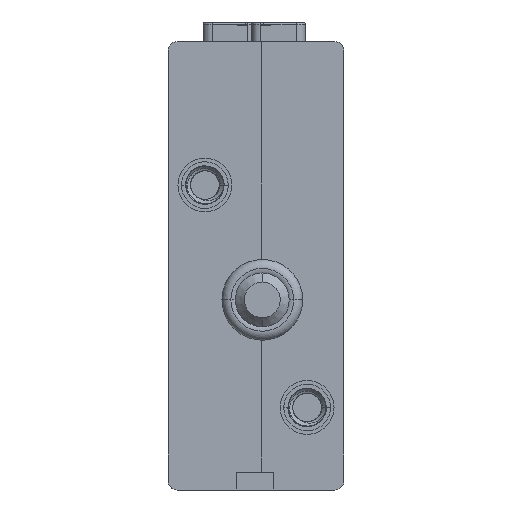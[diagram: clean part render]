
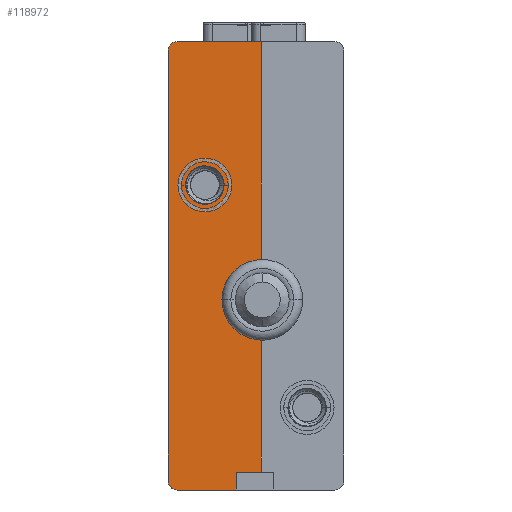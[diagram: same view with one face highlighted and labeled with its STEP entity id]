
A CAD part, left-side view. The second image highlights one B-rep face of the part: STEP entity #118972.
In plain terms, the highlighted planar face has unit normal (-1, 0, 0).
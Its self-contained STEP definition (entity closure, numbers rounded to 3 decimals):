
#116344=DIRECTION('',(0.,-1.,0.));
#116345=VECTOR('',#116344,4.7);
#116346=CARTESIAN_POINT('',(-21.,5.2,-12.5));
#116347=LINE('',#116346,#116345);
#116348=CARTESIAN_POINT('',(-21.,2.05,-4.5));
#116349=DIRECTION('',(-1.,0.,0.));
#116350=DIRECTION('',(0.,-1.,0.));
#116351=AXIS2_PLACEMENT_3D('',#116348,#116349,#116350);
#116353=CARTESIAN_POINT('',(-21.,2.05,-4.5));
#116354=DIRECTION('',(-1.,0.,0.));
#116355=DIRECTION('',(0.,1.,0.));
#116356=AXIS2_PLACEMENT_3D('',#116353,#116354,#116355);
#116358=CARTESIAN_POINT('',(-21.,0.5,12.));
#116359=DIRECTION('',(-1.,0.,0.));
#116360=DIRECTION('',(0.,-1.,0.));
#116361=AXIS2_PLACEMENT_3D('',#116358,#116359,#116360);
#116363=CARTESIAN_POINT('',(-21.,0.5,-12.));
#116364=DIRECTION('',(-1.,0.,0.));
#116365=DIRECTION('',(0.,0.,-1.));
#116366=AXIS2_PLACEMENT_3D('',#116363,#116364,#116365);
#116368=DIRECTION('',(0.,0.,1.));
#116369=VECTOR('',#116368,12.751);
#116370=CARTESIAN_POINT('',(-21.,5.2,-12.5));
#116371=LINE('',#116370,#116369);
#116372=CARTESIAN_POINT('',(-21.,5.25,1.9));
#116373=DIRECTION('',(-1.,0.,0.));
#116374=DIRECTION('',(0.,-0.03,-1.));
#116375=AXIS2_PLACEMENT_3D('',#116372,#116373,#116374);
#116377=DIRECTION('',(0.,0.,1.));
#116378=VECTOR('',#116377,7.951);
#116379=CARTESIAN_POINT('',(-21.,5.2,3.549));
#116380=LINE('',#116379,#116378);
#116472=DIRECTION('',(0.,1.,0.));
#116473=VECTOR('',#116472,3.3);
#116474=CARTESIAN_POINT('',(-21.,0.5,12.5));
#116475=LINE('',#116474,#116473);
#116589=DIRECTION('',(0.,0.,1.));
#116590=VECTOR('',#116589,1.);
#116591=CARTESIAN_POINT('',(-21.,3.8,11.5));
#116592=LINE('',#116591,#116590);
#116640=DIRECTION('',(0.,0.,1.));
#116641=VECTOR('',#116640,24.);
#116642=CARTESIAN_POINT('',(-21.,0.,-12.));
#116643=LINE('',#116642,#116641);
#117578=DIRECTION('',(0.,1.,0.));
#117579=VECTOR('',#117578,1.4);
#117580=CARTESIAN_POINT('',(-21.,3.8,11.5));
#117581=LINE('',#117580,#117579);
#118151=CARTESIAN_POINT('',(-21.,5.2,-12.5));
#118153=VERTEX_POINT('',#118151);
#118160=CARTESIAN_POINT('',(-21.,1.,-4.5));
#118161=CARTESIAN_POINT('',(-21.,3.1,-4.5));
#118162=VERTEX_POINT('',#118160);
#118163=VERTEX_POINT('',#118161);
#118176=CARTESIAN_POINT('',(-21.,5.2,0.251));
#118177=CARTESIAN_POINT('',(-21.,5.2,3.549));
#118178=VERTEX_POINT('',#118176);
#118179=VERTEX_POINT('',#118177);
#118240=CARTESIAN_POINT('',(-21.,3.8,11.5));
#118241=CARTESIAN_POINT('',(-21.,5.2,11.5));
#118242=VERTEX_POINT('',#118240);
#118243=VERTEX_POINT('',#118241);
#118244=CARTESIAN_POINT('',(-21.,3.8,12.5));
#118245=VERTEX_POINT('',#118244);
#118567=CARTESIAN_POINT('',(-21.,0.,12.));
#118568=CARTESIAN_POINT('',(-21.,0.5,12.5));
#118569=VERTEX_POINT('',#118567);
#118570=VERTEX_POINT('',#118568);
#118579=CARTESIAN_POINT('',(-21.,0.5,-12.5));
#118580=CARTESIAN_POINT('',(-21.,0.,-12.));
#118581=VERTEX_POINT('',#118579);
#118582=VERTEX_POINT('',#118580);
#118941=CARTESIAN_POINT('',(-21.,0.,-12.5));
#118942=DIRECTION('',(-1.,0.,0.));
#118943=DIRECTION('',(0.,0.,1.));
#118944=AXIS2_PLACEMENT_3D('',#118941,#118942,#118943);
#118945=PLANE('',#118944);
#118947=ORIENTED_EDGE('',*,*,#118946,.F.);
#118949=ORIENTED_EDGE('',*,*,#118948,.F.);
#118950=ORIENTED_EDGE('',*,*,#118931,.F.);
#118951=ORIENTED_EDGE('',*,*,#118921,.F.);
#118953=ORIENTED_EDGE('',*,*,#118952,.T.);
#118955=ORIENTED_EDGE('',*,*,#118954,.T.);
#118957=ORIENTED_EDGE('',*,*,#118956,.T.);
#118959=ORIENTED_EDGE('',*,*,#118958,.F.);
#118961=ORIENTED_EDGE('',*,*,#118960,.T.);
#118963=ORIENTED_EDGE('',*,*,#118962,.F.);
#118964=EDGE_LOOP('',(#118947,#118949,#118950,#118951,#118953,#118955,#118957,
#118959,#118961,#118963));
#118965=FACE_OUTER_BOUND('',#118964,.F.);
#118967=ORIENTED_EDGE('',*,*,#118966,.T.);
#118969=ORIENTED_EDGE('',*,*,#118968,.T.);
#118970=EDGE_LOOP('',(#118967,#118969));
#118971=FACE_BOUND('',#118970,.F.);
#118972=ADVANCED_FACE('',(#118965,#118971),#118945,.T.);
#116352=CIRCLE('',#116351,1.05);
#116357=CIRCLE('',#116356,1.05);
#116362=CIRCLE('',#116361,0.5);
#116367=CIRCLE('',#116366,0.5);
#116376=CIRCLE('',#116375,1.65);
#118921=EDGE_CURVE('',#118153,#118581,#116347,.T.);
#118931=EDGE_CURVE('',#118581,#118582,#116367,.T.);
#118946=EDGE_CURVE('',#118569,#118570,#116362,.T.);
#118948=EDGE_CURVE('',#118582,#118569,#116643,.T.);
#118952=EDGE_CURVE('',#118153,#118178,#116371,.T.);
#118954=EDGE_CURVE('',#118178,#118179,#116376,.T.);
#118956=EDGE_CURVE('',#118179,#118243,#116380,.T.);
#118958=EDGE_CURVE('',#118242,#118243,#117581,.T.);
#118960=EDGE_CURVE('',#118242,#118245,#116592,.T.);
#118962=EDGE_CURVE('',#118570,#118245,#116475,.T.);
#118966=EDGE_CURVE('',#118162,#118163,#116352,.T.);
#118968=EDGE_CURVE('',#118163,#118162,#116357,.T.);
